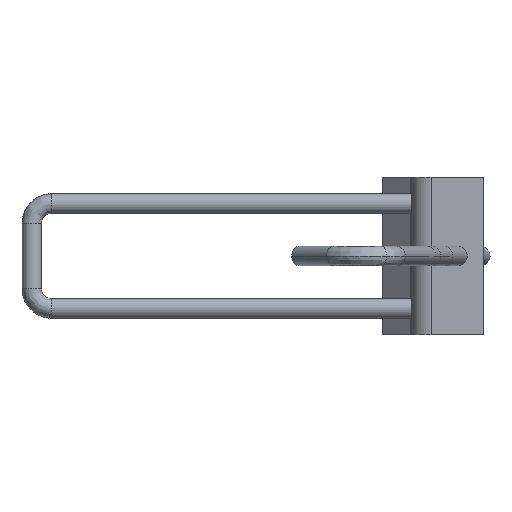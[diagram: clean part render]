
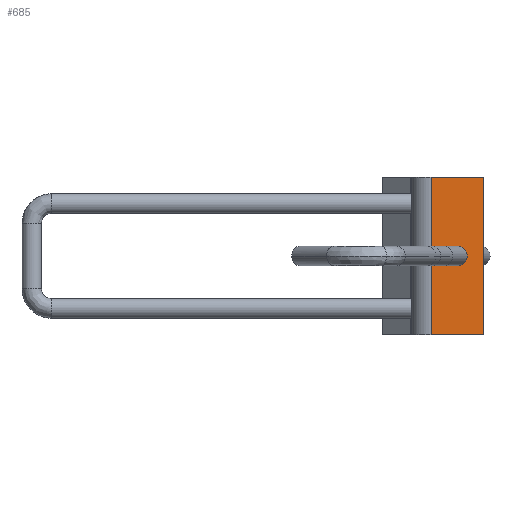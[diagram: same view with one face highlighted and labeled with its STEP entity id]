
A CAD part, left-side view. The second image highlights one B-rep face of the part: STEP entity #685.
In plain terms, the highlighted planar face has unit normal (-1, 0, 0).
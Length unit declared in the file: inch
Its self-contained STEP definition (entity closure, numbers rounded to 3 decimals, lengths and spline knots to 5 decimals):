
#499=EDGE_CURVE('',#1231,#1232,#1233,.T.);
#607=EDGE_CURVE('',#1395,#1396,#1397,.T.);
#685=ADVANCED_FACE('',(#1503,#1504),#1505,.T.);
#745=EDGE_CURVE('',#1395,#1103,#1582,.T.);
#747=EDGE_CURVE('',#1396,#1584,#1585,.T.);
#801=EDGE_CURVE('',#1103,#1584,#1652,.T.);
#947=EDGE_CURVE('',#1232,#1231,#1822,.T.);
#1103=VERTEX_POINT('',#2396);
#1231=VERTEX_POINT('',#2582);
#1232=VERTEX_POINT('',#2583);
#1233=ELLIPSE('',#2584,0.19058,0.1875);
#1395=VERTEX_POINT('',#3018);
#1396=VERTEX_POINT('',#3019);
#1397=LINE('',#3020,#3021);
#1503=FACE_OUTER_BOUND('',#3383,.T.);
#1504=FACE_BOUND('',#3384,.T.);
#1505=PLANE('',#3385);
#1582=LINE('',#3519,#3520);
#1584=VERTEX_POINT('',#3523);
#1585=LINE('',#3524,#3525);
#1652=LINE('',#3674,#3675);
#1822=ELLIPSE('',#4110,0.19058,0.1875);
#2396=CARTESIAN_POINT('',(3.52252,-0.14678,0.0));
#2582=CARTESIAN_POINT('',(3.52252,-0.45015,1.5));
#2583=CARTESIAN_POINT('',(3.52252,-0.83131,1.5));
#2584=AXIS2_PLACEMENT_3D('',#4420,#4421,#4422);
#3018=CARTESIAN_POINT('',(3.52252,-1.14678,0.0));
#3019=CARTESIAN_POINT('',(3.52252,-1.14678,3.0));
#3020=CARTESIAN_POINT('',(3.52252,-1.14678,0.0));
#3021=VECTOR('',#4614,1.0);
#3383=EDGE_LOOP('',(#4752,#4753,#4754,#4755));
#3384=EDGE_LOOP('',(#4756,#4757));
#3385=AXIS2_PLACEMENT_3D('',#4758,#4759,#4760);
#3519=CARTESIAN_POINT('',(3.52252,-1.14678,0.0));
#3520=VECTOR('',#4845,1.0);
#3523=CARTESIAN_POINT('',(3.52252,-0.14678,3.0));
#3524=CARTESIAN_POINT('',(3.52252,-1.14678,3.0));
#3525=VECTOR('',#4846,1.0);
#3674=CARTESIAN_POINT('',(3.52252,-0.14678,0.0));
#3675=VECTOR('',#4921,1.0);
#4110=AXIS2_PLACEMENT_3D('',#5124,#5125,#5126);
#4420=CARTESIAN_POINT('',(3.52252,-0.64073,1.5));
#4421=DIRECTION('',(-1.0,0.0,0.0));
#4422=DIRECTION('',(0.0,-1.0,0.0));
#4614=DIRECTION('',(0.0,0.0,1.0));
#4752=ORIENTED_EDGE('',*,*,#747,.T.);
#4753=ORIENTED_EDGE('',*,*,#801,.F.);
#4754=ORIENTED_EDGE('',*,*,#745,.F.);
#4755=ORIENTED_EDGE('',*,*,#607,.T.);
#4756=ORIENTED_EDGE('',*,*,#499,.F.);
#4757=ORIENTED_EDGE('',*,*,#947,.F.);
#4758=CARTESIAN_POINT('',(3.52252,-0.64678,0.0));
#4759=DIRECTION('',(-1.0,-0.0,0.0));
#4760=DIRECTION('',(0.0,-1.0,-0.0));
#4845=DIRECTION('',(0.0,1.0,0.0));
#4846=DIRECTION('',(0.0,1.0,0.0));
#4921=DIRECTION('',(0.0,0.0,1.0));
#5124=CARTESIAN_POINT('',(3.52252,-0.64073,1.5));
#5125=DIRECTION('',(-1.0,0.0,0.0));
#5126=DIRECTION('',(0.0,-1.0,0.0));
